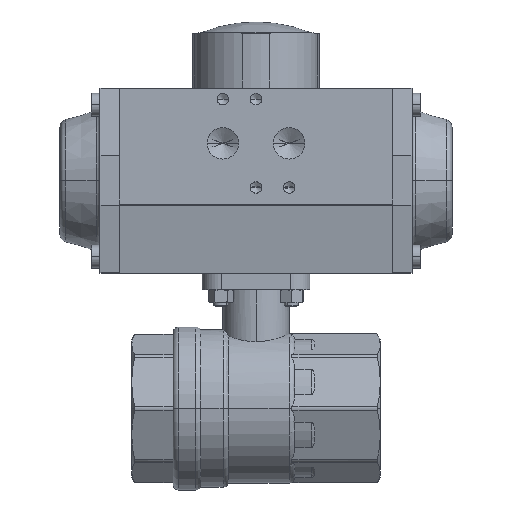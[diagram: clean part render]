
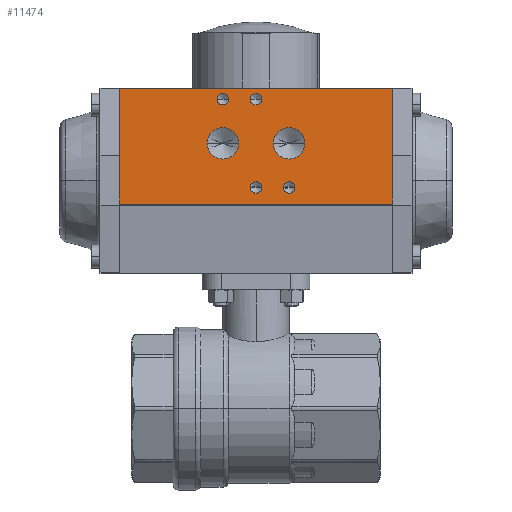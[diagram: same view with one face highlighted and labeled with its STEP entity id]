
A CAD part, top view. The second image highlights one B-rep face of the part: STEP entity #11474.
In plain terms, the highlighted planar face has unit normal (0, 0, 1) as drawn and (1, 0, 0) by its records, which use the part's own axes.
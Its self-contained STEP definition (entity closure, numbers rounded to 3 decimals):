
#1786 = EDGE_CURVE ( 'NONE', #6198, #6199, #7273, .T. ) ;
#1893 = EDGE_CURVE ( 'NONE', #6283, #6284, #10056, .T. ) ;
#1895 = EDGE_CURVE ( 'NONE', #6174, #6173, #7656, .T. ) ;
#1896 = EDGE_CURVE ( 'NONE', #6179, #6178, #7654, .T. ) ;
#1897 = EDGE_CURVE ( 'NONE', #6184, #6183, #7652, .T. ) ;
#1898 = EDGE_CURVE ( 'NONE', #6189, #6188, #7643, .T. ) ;
#1899 = EDGE_CURVE ( 'NONE', #6194, #6193, #7646, .T. ) ;
#1900 = EDGE_CURVE ( 'NONE', #6199, #6198, #7649, .T. ) ;
#1901 = EDGE_CURVE ( 'NONE', #6286, #6284, #10061, .T. ) ;
#1902 = EDGE_CURVE ( 'NONE', #6278, #6286, #10079, .T. ) ;
#1903 = EDGE_CURVE ( 'NONE', #6278, #6283, #10078, .T. ) ;
#4058 = CARTESIAN_POINT ( 'NONE',  ( 36., 29.5, 14.1 ) ) ;
#4059 = CARTESIAN_POINT ( 'NONE',  ( 36., 29.5, 9.9 ) ) ;
#4063 = CARTESIAN_POINT ( 'NONE',  ( 36., -2.5, -9.9 ) ) ;
#4064 = CARTESIAN_POINT ( 'NONE',  ( 36., -2.5, -14.1 ) ) ;
#4068 = CARTESIAN_POINT ( 'NONE',  ( 36., -2.5, 2.1 ) ) ;
#4069 = CARTESIAN_POINT ( 'NONE',  ( 36., -2.5, -2.1 ) ) ;
#4073 = CARTESIAN_POINT ( 'NONE',  ( 36., 29.5, 2.1 ) ) ;
#4074 = CARTESIAN_POINT ( 'NONE',  ( 36., 29.5, -2.1 ) ) ;
#4078 = CARTESIAN_POINT ( 'NONE',  ( 36., 13.5, -6.277 ) ) ;
#4079 = CARTESIAN_POINT ( 'NONE',  ( 36., 13.5, -17.722 ) ) ;
#4083 = CARTESIAN_POINT ( 'NONE',  ( 36., 13.5, 17.722 ) ) ;
#4084 = CARTESIAN_POINT ( 'NONE',  ( 36., 13.5, 6.277 ) ) ;
#4163 = CARTESIAN_POINT ( 'NONE',  ( 36., -8.5, -49.5 ) ) ;
#4168 = CARTESIAN_POINT ( 'NONE',  ( 36., 33.5, -49.5 ) ) ;
#4169 = CARTESIAN_POINT ( 'NONE',  ( 36., 33.5, 49.5 ) ) ;
#4171 = CARTESIAN_POINT ( 'NONE',  ( 36., -8.5, 49.5 ) ) ;
#4718 = AXIS2_PLACEMENT_3D ( 'NONE', #12470, #12486, #12487 ) ;
#5011 = AXIS2_PLACEMENT_3D ( 'NONE', #11770, #11771, #11772 ) ;
#5015 = CIRCLE ( 'NONE', #5011, 5.722 ) ;
#5019 = AXIS2_PLACEMENT_3D ( 'NONE', #11751, #11752, #11753 ) ;
#5023 = CIRCLE ( 'NONE', #5019, 2.1 ) ;
#5027 = AXIS2_PLACEMENT_3D ( 'NONE', #11733, #11734, #11735 ) ;
#5031 = CIRCLE ( 'NONE', #5027, 2.1 ) ;
#5035 = AXIS2_PLACEMENT_3D ( 'NONE', #11715, #11716, #11717 ) ;
#5039 = CIRCLE ( 'NONE', #5035, 2.1 ) ;
#5043 = AXIS2_PLACEMENT_3D ( 'NONE', #11697, #11698, #11699 ) ;
#5047 = CIRCLE ( 'NONE', #5043, 2.1 ) ;
#5774 = ORIENTED_EDGE ( 'NONE', *, *, #1895, .F. ) ;
#5775 = ORIENTED_EDGE ( 'NONE', *, *, #11363, .F. ) ;
#5776 = ORIENTED_EDGE ( 'NONE', *, *, #1896, .F. ) ;
#5777 = ORIENTED_EDGE ( 'NONE', *, *, #11369, .F. ) ;
#5778 = ORIENTED_EDGE ( 'NONE', *, *, #1897, .F. ) ;
#5779 = ORIENTED_EDGE ( 'NONE', *, *, #11375, .F. ) ;
#5780 = ORIENTED_EDGE ( 'NONE', *, *, #1898, .F. ) ;
#5781 = ORIENTED_EDGE ( 'NONE', *, *, #11381, .F. ) ;
#5782 = ORIENTED_EDGE ( 'NONE', *, *, #1899, .F. ) ;
#5783 = ORIENTED_EDGE ( 'NONE', *, *, #11387, .F. ) ;
#5784 = ORIENTED_EDGE ( 'NONE', *, *, #1900, .F. ) ;
#5785 = ORIENTED_EDGE ( 'NONE', *, *, #1786, .F. ) ;
#5786 = ORIENTED_EDGE ( 'NONE', *, *, #1893, .T. ) ;
#5787 = ORIENTED_EDGE ( 'NONE', *, *, #1901, .F. ) ;
#5788 = ORIENTED_EDGE ( 'NONE', *, *, #1902, .F. ) ;
#5789 = ORIENTED_EDGE ( 'NONE', *, *, #1903, .T. ) ;
#6173 = VERTEX_POINT ( 'NONE', #4058 ) ;
#6174 = VERTEX_POINT ( 'NONE', #4059 ) ;
#6178 = VERTEX_POINT ( 'NONE', #4063 ) ;
#6179 = VERTEX_POINT ( 'NONE', #4064 ) ;
#6183 = VERTEX_POINT ( 'NONE', #4068 ) ;
#6184 = VERTEX_POINT ( 'NONE', #4069 ) ;
#6188 = VERTEX_POINT ( 'NONE', #4073 ) ;
#6189 = VERTEX_POINT ( 'NONE', #4074 ) ;
#6193 = VERTEX_POINT ( 'NONE', #4078 ) ;
#6194 = VERTEX_POINT ( 'NONE', #4079 ) ;
#6198 = VERTEX_POINT ( 'NONE', #4083 ) ;
#6199 = VERTEX_POINT ( 'NONE', #4084 ) ;
#6278 = VERTEX_POINT ( 'NONE', #4163 ) ;
#6283 = VERTEX_POINT ( 'NONE', #4168 ) ;
#6284 = VERTEX_POINT ( 'NONE', #4169 ) ;
#6286 = VERTEX_POINT ( 'NONE', #4171 ) ;
#6521 = CARTESIAN_POINT ( 'NONE',  ( 36., 13.5, 12. ) ) ;
#6522 = DIRECTION ( 'NONE',  ( 1., 0., 0. ) ) ;
#6523 = DIRECTION ( 'NONE',  ( 0., 0., -1. ) ) ;
#7256 = AXIS2_PLACEMENT_3D ( 'NONE', #6521, #6522, #6523 ) ;
#7273 = CIRCLE ( 'NONE', #7256, 5.722 ) ;
#7638 = VECTOR ( 'NONE', #10084, 1000. ) ;
#7640 = AXIS2_PLACEMENT_3D ( 'NONE', #10071, #10072, #10073 ) ;
#7641 = VECTOR ( 'NONE', #10087, 1000. ) ;
#7642 = AXIS2_PLACEMENT_3D ( 'NONE', #10075, #10076, #10077 ) ;
#7643 = CIRCLE ( 'NONE', #7640, 2.1 ) ;
#7645 = AXIS2_PLACEMENT_3D ( 'NONE', #10065, #10066, #10067 ) ;
#7646 = CIRCLE ( 'NONE', #7642, 5.722 ) ;
#7649 = CIRCLE ( 'NONE', #7692, 5.722 ) ;
#7650 = AXIS2_PLACEMENT_3D ( 'NONE', #10068, #10069, #10070 ) ;
#7651 = AXIS2_PLACEMENT_3D ( 'NONE', #10062, #10063, #10064 ) ;
#7652 = CIRCLE ( 'NONE', #7650, 2.1 ) ;
#7654 = CIRCLE ( 'NONE', #7645, 2.1 ) ;
#7656 = CIRCLE ( 'NONE', #7651, 2.1 ) ;
#7664 = VECTOR ( 'NONE', #10058, 1000. ) ;
#7692 = AXIS2_PLACEMENT_3D ( 'NONE', #10080, #10081, #10082 ) ;
#7708 = VECTOR ( 'NONE', #10089, 1000. ) ;
#8262 = EDGE_LOOP ( 'NONE', ( #5776, #5777 ) ) ;
#8263 = EDGE_LOOP ( 'NONE', ( #5784, #5785 ) ) ;
#8267 = EDGE_LOOP ( 'NONE', ( #5780, #5781 ) ) ;
#8268 = EDGE_LOOP ( 'NONE', ( #5774, #5775 ) ) ;
#8269 = EDGE_LOOP ( 'NONE', ( #5782, #5783 ) ) ;
#8270 = EDGE_LOOP ( 'NONE', ( #5778, #5779 ) ) ;
#8271 = EDGE_LOOP ( 'NONE', ( #5786, #5787, #5788, #5789 ) ) ;
#10056 = LINE ( 'NONE', #10057, #7664 ) ;
#10057 = CARTESIAN_POINT ( 'NONE',  ( 36., 33.5, -49.5 ) ) ;
#10058 = DIRECTION ( 'NONE',  ( 0., 0., 1. ) ) ;
#10061 = LINE ( 'NONE', #10074, #7638 ) ;
#10062 = CARTESIAN_POINT ( 'NONE',  ( 36., 29.5, 12. ) ) ;
#10063 = DIRECTION ( 'NONE',  ( 1., 0., 0. ) ) ;
#10064 = DIRECTION ( 'NONE',  ( 0., 0., -1. ) ) ;
#10065 = CARTESIAN_POINT ( 'NONE',  ( 36., -2.5, -12. ) ) ;
#10066 = DIRECTION ( 'NONE',  ( 1., 0., 0. ) ) ;
#10067 = DIRECTION ( 'NONE',  ( 0., 0., -1. ) ) ;
#10068 = CARTESIAN_POINT ( 'NONE',  ( 36., -2.5, 0. ) ) ;
#10069 = DIRECTION ( 'NONE',  ( 1., 0., 0. ) ) ;
#10070 = DIRECTION ( 'NONE',  ( 0., 0., -1. ) ) ;
#10071 = CARTESIAN_POINT ( 'NONE',  ( 36., 29.5, 0. ) ) ;
#10072 = DIRECTION ( 'NONE',  ( 1., 0., 0. ) ) ;
#10073 = DIRECTION ( 'NONE',  ( 0., 0., -1. ) ) ;
#10074 = CARTESIAN_POINT ( 'NONE',  ( 36., -8.5, 49.5 ) ) ;
#10075 = CARTESIAN_POINT ( 'NONE',  ( 36., 13.5, -12. ) ) ;
#10076 = DIRECTION ( 'NONE',  ( 1., 0., 0. ) ) ;
#10077 = DIRECTION ( 'NONE',  ( 0., 0., -1. ) ) ;
#10078 = LINE ( 'NONE', #10088, #7708 ) ;
#10079 = LINE ( 'NONE', #10085, #7641 ) ;
#10080 = CARTESIAN_POINT ( 'NONE',  ( 36., 13.5, 12. ) ) ;
#10081 = DIRECTION ( 'NONE',  ( 1., 0., 0. ) ) ;
#10082 = DIRECTION ( 'NONE',  ( 0., 0., -1. ) ) ;
#10084 = DIRECTION ( 'NONE',  ( 0., 1., 0. ) ) ;
#10085 = CARTESIAN_POINT ( 'NONE',  ( 36., -8.5, -49.5 ) ) ;
#10087 = DIRECTION ( 'NONE',  ( 0., 0., 1. ) ) ;
#10088 = CARTESIAN_POINT ( 'NONE',  ( 36., -8.5, -49.5 ) ) ;
#10089 = DIRECTION ( 'NONE',  ( 0., 1., 0. ) ) ;
#11363 = EDGE_CURVE ( 'NONE', #6173, #6174, #5047, .T. ) ;
#11369 = EDGE_CURVE ( 'NONE', #6178, #6179, #5039, .T. ) ;
#11375 = EDGE_CURVE ( 'NONE', #6183, #6184, #5031, .T. ) ;
#11381 = EDGE_CURVE ( 'NONE', #6188, #6189, #5023, .T. ) ;
#11387 = EDGE_CURVE ( 'NONE', #6193, #6194, #5015, .T. ) ;
#11474 = ADVANCED_FACE ( 'NONE', ( #12478, #12474, #12481, #12483, #12477, #12479, #12480 ), #12482, .T. ) ;
#11697 = CARTESIAN_POINT ( 'NONE',  ( 36., 29.5, 12. ) ) ;
#11698 = DIRECTION ( 'NONE',  ( 1., 0., 0. ) ) ;
#11699 = DIRECTION ( 'NONE',  ( 0., 0., -1. ) ) ;
#11715 = CARTESIAN_POINT ( 'NONE',  ( 36., -2.5, -12. ) ) ;
#11716 = DIRECTION ( 'NONE',  ( 1., 0., 0. ) ) ;
#11717 = DIRECTION ( 'NONE',  ( 0., 0., -1. ) ) ;
#11733 = CARTESIAN_POINT ( 'NONE',  ( 36., -2.5, 0. ) ) ;
#11734 = DIRECTION ( 'NONE',  ( 1., 0., 0. ) ) ;
#11735 = DIRECTION ( 'NONE',  ( 0., 0., -1. ) ) ;
#11751 = CARTESIAN_POINT ( 'NONE',  ( 36., 29.5, 0. ) ) ;
#11752 = DIRECTION ( 'NONE',  ( 1., 0., 0. ) ) ;
#11753 = DIRECTION ( 'NONE',  ( 0., 0., -1. ) ) ;
#11770 = CARTESIAN_POINT ( 'NONE',  ( 36., 13.5, -12. ) ) ;
#11771 = DIRECTION ( 'NONE',  ( 1., 0., 0. ) ) ;
#11772 = DIRECTION ( 'NONE',  ( 0., 0., -1. ) ) ;
#12470 = CARTESIAN_POINT ( 'NONE',  ( 36., -8.5, -49.5 ) ) ;
#12474 = FACE_BOUND ( 'NONE', #8262, .T. ) ;
#12477 = FACE_BOUND ( 'NONE', #8269, .T. ) ;
#12478 = FACE_BOUND ( 'NONE', #8268, .T. ) ;
#12479 = FACE_BOUND ( 'NONE', #8263, .T. ) ;
#12480 = FACE_OUTER_BOUND ( 'NONE', #8271, .T. ) ;
#12481 = FACE_BOUND ( 'NONE', #8270, .T. ) ;
#12482 = PLANE ( 'NONE',  #4718 ) ;
#12483 = FACE_BOUND ( 'NONE', #8267, .T. ) ;
#12486 = DIRECTION ( 'NONE',  ( 1., 0., 0. ) ) ;
#12487 = DIRECTION ( 'NONE',  ( 0., 0., -1. ) ) ;
